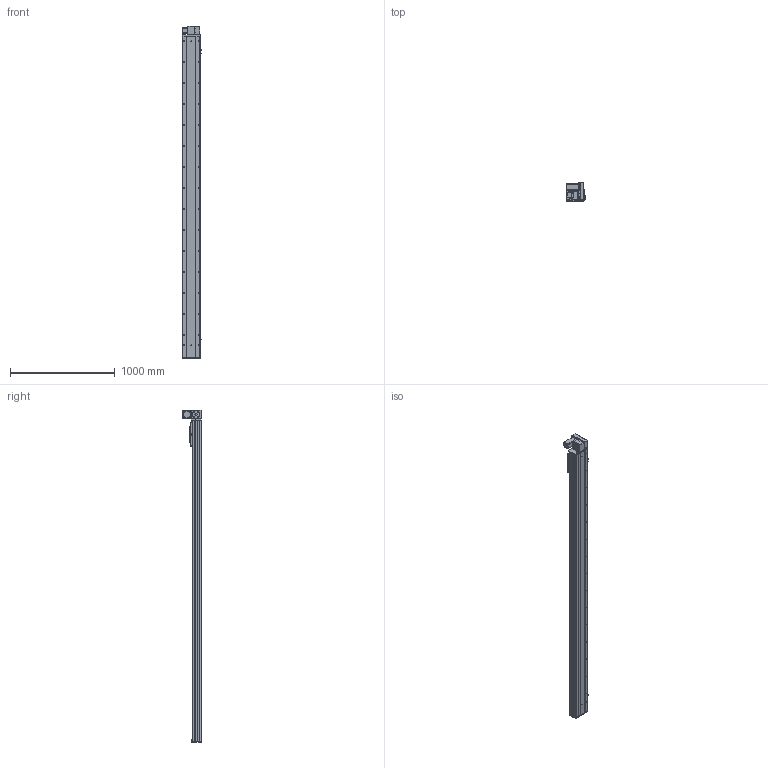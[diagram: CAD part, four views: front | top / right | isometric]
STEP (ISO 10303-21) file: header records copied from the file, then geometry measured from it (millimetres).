
FILE_DESCRIPTION (( 'STEP AP203' ), '1' );
FILE_NAME ('Y170CB-D105-S2750-UR-P400W.STEP', '2020-02-20T05:53:35', ( '微软用户' ), ( '微软中国' ), 'SwSTEP 2.0', 'SolidWorks 2017', '' );
FILE_SCHEMA (( 'CONFIG_CONTROL_DESIGN' ));
Length unit declared in the file: millimetre
Products named in the file (18): B-源倛裔啣; Y170CB-D105-S2750-UR-P400W; 0C--雄赽釱俋欶-170; 0B-萇儂楊擘啣; 70CB-詩湍--; san松下电机400不带刹车----; Y100-135俋离換覜ん--; 70CB-掛极-; Y170CB-陔俋离換覜結え---; --70CB --喘謫眊楊擘啣-; Y1埴倛裔; 70CB-耜裔啣-; 17B-耜蚾蟀諉啣----; 70C--詩湍揤踡え-; 00B-俋欶BM--163; 70CB--耜裔; 70B喘謫眊----; 70C-雄赽釱-奻-
Assembly tree (21 placements, depth 2):
  Y170CB-D105-S2750-UR-P400W
    B-源倛裔啣
    0B-萇儂楊擘啣
    san松下电机400不带刹车----
    70CB-掛极-
    --70CB --喘謫眊楊擘啣-
    70CB-耜裔啣-  x2
    70C--詩湍揤踡え-  x2
    70CB--耜裔
    70C-雄赽釱-奻-
    0C--雄赽釱俋欶-170
    70CB-詩湍--
    Y100-135俋离換覜ん--  x3
    Y170CB-陔俋离換覜結え---
    Y1埴倛裔
    17B-耜蚾蟀諉啣----
    00B-俋欶BM--163
    70B喘謫眊----
Bounding box: 183.5 x 174 x 3166 mm (x, y, z)
Volume: 13429582.8 mm3; surface area: 4852725.8 mm2
Topology: 21 solids, 21 shells, 1079 faces, 2909 edges, 1930 vertices
Faces by surface type: cylinder 593, plane 462, cone 24
Entity records: 34664 total; most frequent: CARTESIAN_POINT 6396, DIRECTION 5642, ORIENTED_EDGE 5300, EDGE_CURVE 2650, AXIS2_PLACEMENT_3D 2088, VERTEX_POINT 1760, VECTOR 1466, LINE 1466
